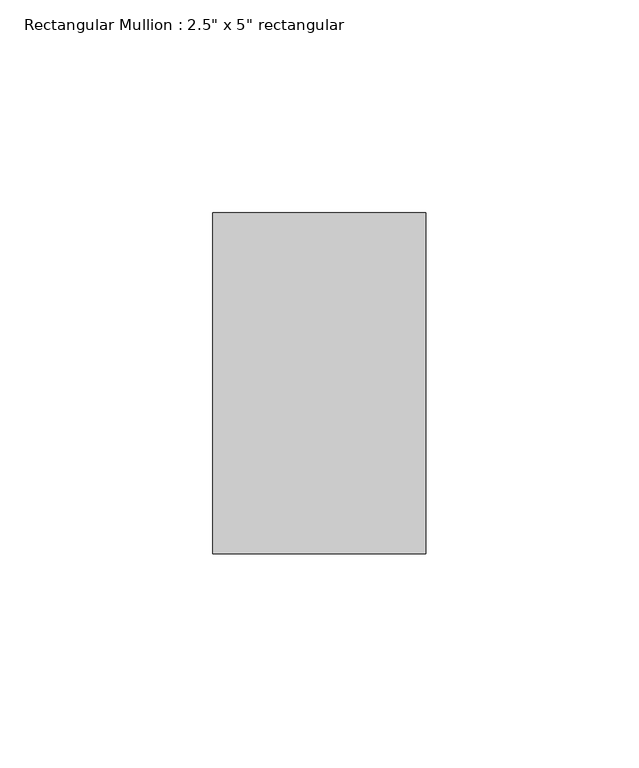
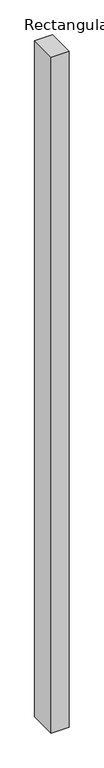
"""IFC4 building model written with IfcOpenShell, lengths in millimetres: member geometry."""

from ifc_helpers import new_model, si_unit, frame, origin, place, context, project, spatial, polyline, outline, extrude, source, transform, mapped, element, save


def member_c260e5f1(model_context):
    return source(origin(), model_context, "Body", "SweptSolid", [
        extrude(outline(polyline([(25.0, 40.0), (25.0, -40.0), (-25.0, -40.0), (-25.0, 40.0), (25.0, 40.0)])), frame((0.0, 0.0, -2000.0), z_axis=(0.0, 0.0, 1.0), x_axis=(1.0, 0.0, 0.0)), (0.0, 0.0, 1.0), 2000.0),
    ])


if __name__ == "__main__":
    model = new_model("IFC4")
    model_context = context("Model", 3, world=origin())
    ifc_project = project(units=[si_unit("LENGTHUNIT", "METRE", prefix="MILLI")], contexts=[model_context])
    site = spatial("IfcSite", under=ifc_project)
    building = spatial("IfcBuilding", under=site)
    placement = place(None, origin())
    member_shape = member_c260e5f1(model_context)
    element("IfcMember", 1, ObjectType="Rectangular Mullion : 2.5\" x 5\" rectangular", at=placement, inside=building, context=model_context, shape_type="MappedRepresentation", body=[
        mapped(member_shape, transform((0.0, 0.0, 0.0), x_axis=(1.0, 0.0, 0.0), y_axis=(0.0, 1.0, 0.0), z_axis=(0.0, 0.0, 1.0))),
    ])
    save(model, "model.ifc")
